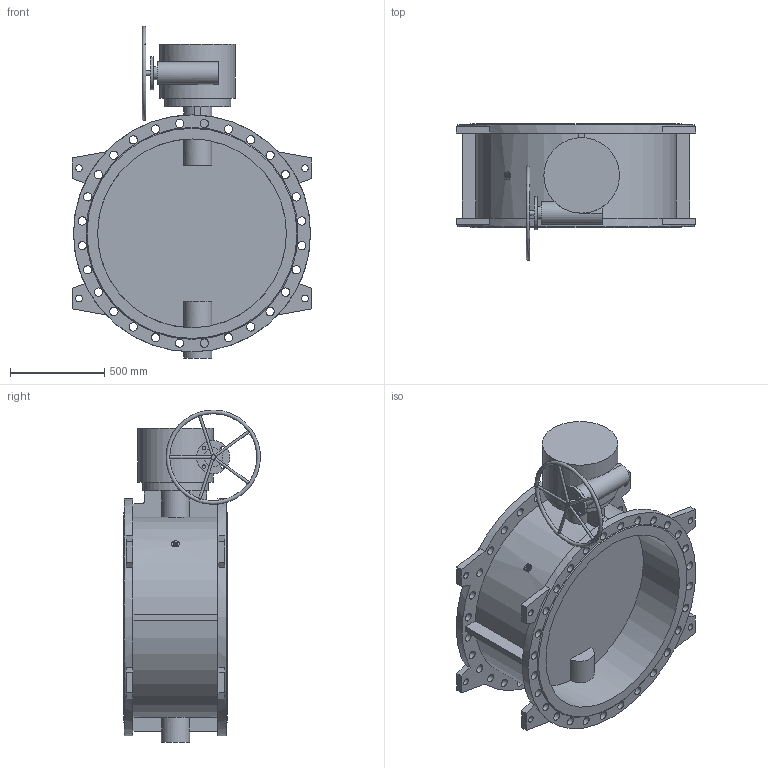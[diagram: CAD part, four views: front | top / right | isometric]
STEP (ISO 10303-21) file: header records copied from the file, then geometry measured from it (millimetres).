
FILE_DESCRIPTION(('STEP AP203'), '1');
FILE_NAME('Çàòâîð 023F.Z DN1000 PN16_ìàõ', '', ('UNSPECIFIED'), ('UNSPECIFIED'), 'ASCON STEP Converter 1.6', 'ASCON Math Kernel', '');
FILE_SCHEMA(('CONFIG_CONTROL_DESIGN'));
Length unit declared in the file: millimetre
Bounding box: 1266 x 724.87 x 1757.91 mm (x, y, z)
Volume: 203764387.2 mm3; surface area: 8294963.6 mm2
Topology: 1 solids, 1 shells, 224 faces, 577 edges, 381 vertices
Faces by surface type: cylinder 119, plane 102, cone 2, torus 1
Full cylindrical faces by diameter (mm): 14 x5, 18 x12, 23 x8, 24 x1, 35 x8, 44 x56, 70 x1, 100 x1, 120 x1, 150 x1, 175 x1, 350 x1, 400 x1, 1000 x2, 1255 x2
Entity records: 11108 total; most frequent: CARTESIAN_POINT 3799, DIRECTION 1133, ORIENTED_EDGE 936, EDGE_LOOP 499, AXIS2_PLACEMENT_3D 472, EDGE_CURVE 468, VERTEX_POINT 379, FACE_BOUND 303
